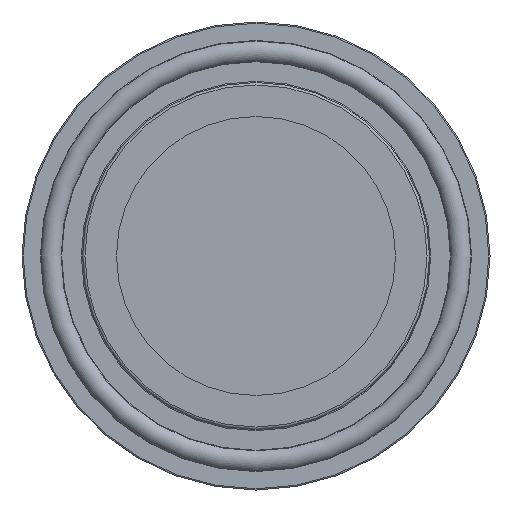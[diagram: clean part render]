
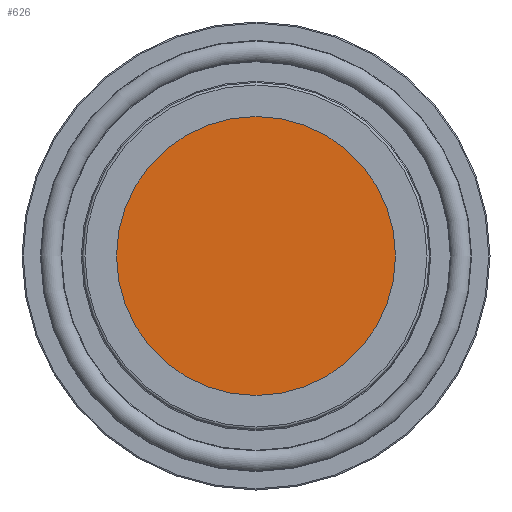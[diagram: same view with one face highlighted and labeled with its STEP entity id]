
A CAD part, left-side view. The second image highlights one B-rep face of the part: STEP entity #626.
In plain terms, the highlighted planar face has unit normal (-1, 0, 0).
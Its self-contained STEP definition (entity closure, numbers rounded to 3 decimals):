
#626 = ADVANCED_FACE( '', ( #1326 ), #1327, .F. );
#1326 = FACE_OUTER_BOUND( '', #3268, .T. );
#1327 = PLANE( '', #3269 );
#3268 = EDGE_LOOP( '', ( #5145 ) );
#3269 = AXIS2_PLACEMENT_3D( '', #5146, #5147, #5148 );
#5145 = ORIENTED_EDGE( '', *, *, #5969, .T. );
#5146 = CARTESIAN_POINT( '', ( 0., 0., 0. ) );
#5147 = DIRECTION( '', ( 1., 0., 0. ) );
#5148 = DIRECTION( '', ( 0., 0., -1. ) );
#5969 = EDGE_CURVE( '', #7056, #7056, #7057, .T. );
#7056 = VERTEX_POINT( '', #9559 );
#7057 = CIRCLE( '', #9560, 29.147 );
#9559 = CARTESIAN_POINT( '', ( 0., 0., 29.147 ) );
#9560 = AXIS2_PLACEMENT_3D( '', #10187, #10188, #10189 );
#10187 = CARTESIAN_POINT( '', ( 0., 0., 0. ) );
#10188 = DIRECTION( '', ( -1., 0., 0. ) );
#10189 = DIRECTION( '', ( 0., 0., 1. ) );
